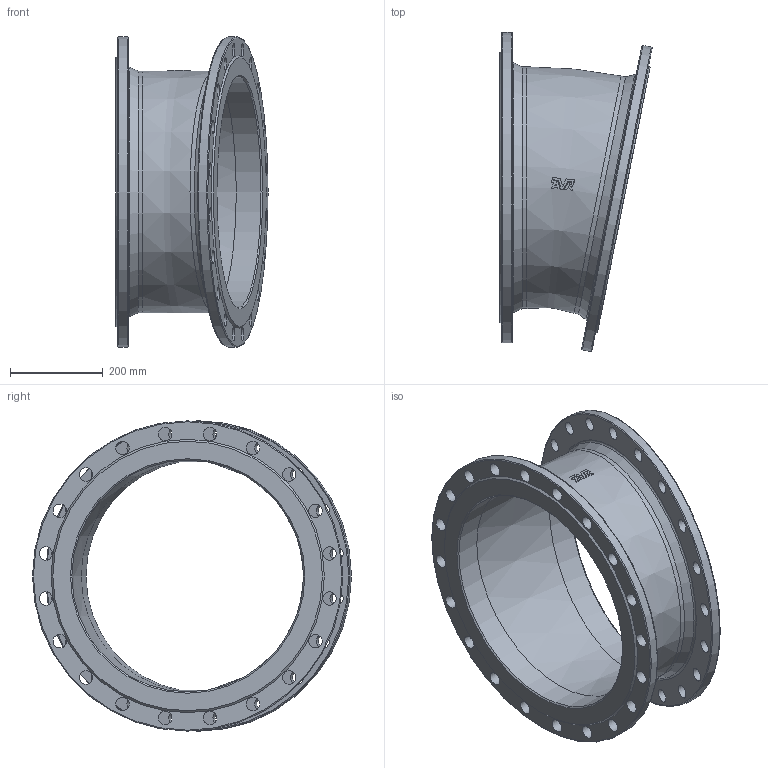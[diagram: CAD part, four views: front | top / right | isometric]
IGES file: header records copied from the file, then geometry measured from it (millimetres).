
Start section: SolidWorks IGES file using analytic representation for surfaces
Global section: file name: \\avksan2\techshare\PBM outline export from Enovia\O_712_0110_DN500_0X_REV01.igs; native system: SolidWorks 2022; preprocessor: SolidWorks 2022; author: pbm; date: 240815.111045; units: millimetre
Bounding box: 328.47 x 688.74 x 670 mm (x, y, z)
Surface area: 1458648.9 mm2 (no closed solid volume)
Topology: 0 solids, 0 shells, 107 faces, 540 edges, 480 vertices
Faces by surface type: revolution 66, bspline 41
